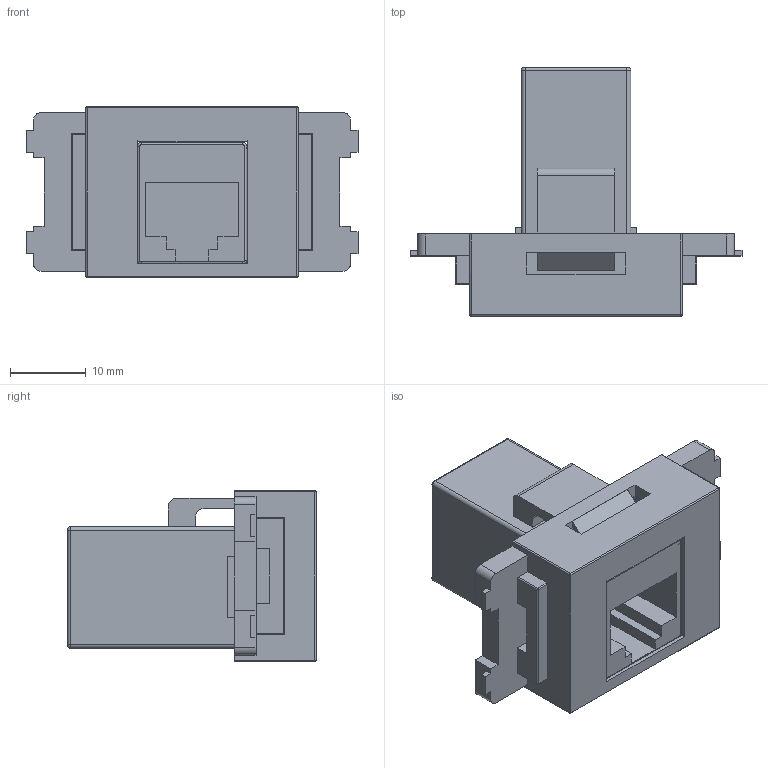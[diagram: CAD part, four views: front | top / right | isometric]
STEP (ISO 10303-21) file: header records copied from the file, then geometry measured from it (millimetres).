
FILE_DESCRIPTION(('FreeCAD Model'),'2;1');
FILE_NAME('Open CASCADE Shape Model','2026-05-11T14:49:18',(''),(''), 'Open CASCADE STEP processor 7.8','FreeCAD','Unknown');
FILE_SCHEMA(('AUTOMOTIVE_DESIGN { 1 0 10303 214 1 1 1 1 }'));
Length unit declared in the file: millimetre
Products named in the file (3): CC_C6_BK_KH; SY-NWT-KH-xx; FA-396-8-C6-BK
Assembly tree (2 placements, depth 2):
  CC_C6_BK_KH
    SY-NWT-KH-xx
    FA-396-8-C6-BK
Bounding box: 43.95 x 32.85 x 22.65 mm (x, y, z)
Volume: 8851.3 mm3; surface area: 7749 mm2
Topology: 2 solids, 2 shells, 190 faces, 514 edges, 326 vertices
Faces by surface type: bspline 111, plane 57, cylinder 14, revolution 8
Entity records: 7342 total; most frequent: CARTESIAN_POINT 3479, ORIENTED_EDGE 1020, EDGE_CURVE 510, DIRECTION 389, VERTEX_POINT 326, B_SPLINE_CURVE_WITH_KNOTS 321, FACE_BOUND 202, EDGE_LOOP 202
